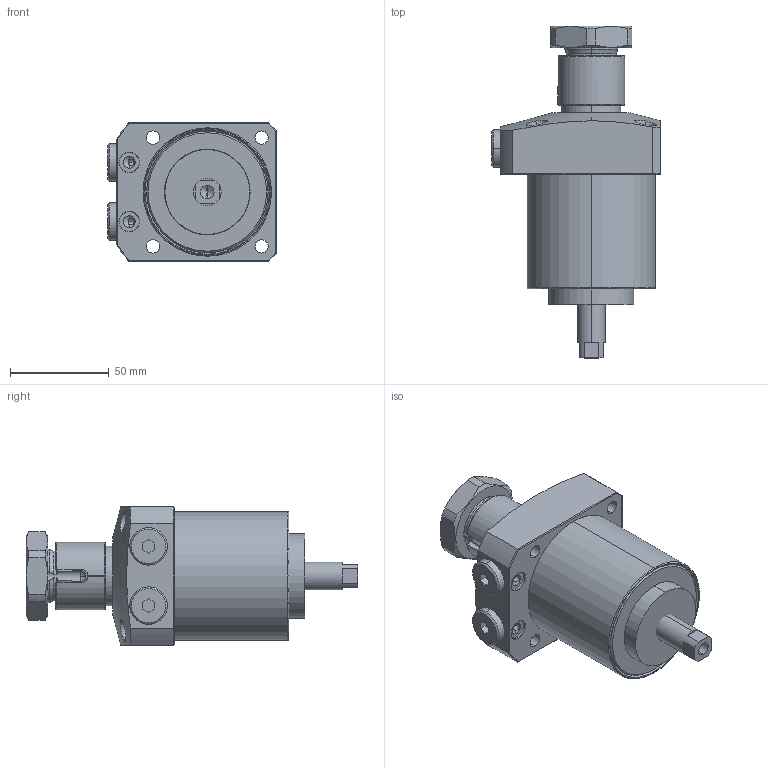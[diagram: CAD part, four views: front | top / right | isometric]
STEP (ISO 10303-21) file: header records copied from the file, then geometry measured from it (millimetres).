
FILE_DESCRIPTION (( 'STEP AP203' ), '1' );
FILE_NAME ('20500-CR-D.STEP', '2020-06-10T01:24:09', ( '微软用户' ), ( '微软中国' ), 'SwSTEP 2.0', 'SolidWorks 2014', '' );
FILE_SCHEMA (( 'CONFIG_CONTROL_DESIGN' ));
Length unit declared in the file: millimetre
Products named in the file (7): 20500-01^20500-CR-D; 20500-02^20500-CR-D; 20500-03^20500-CR-D; 20500-04^20500-CR-D; 20500-05^20500-CR-D; 20500-C-P-4^20500-CR-D; 20500-CR-D
Assembly tree (7 placements, depth 2):
  20500-CR-D
    20500-01^20500-CR-D
    20500-02^20500-CR-D
    20500-03^20500-CR-D
    20500-04^20500-CR-D
    20500-05^20500-CR-D
    20500-C-P-4^20500-CR-D  x2
Bounding box: 85.5 x 168 x 70 mm (x, y, z)
Volume: 423648 mm3; surface area: 62645.6 mm2
Topology: 7 solids, 7 shells, 234 faces, 567 edges, 358 vertices
Faces by surface type: plane 86, cylinder 79, cone 51, torus 16, sphere 2
Entity records: 8107 total; most frequent: CARTESIAN_POINT 2151, DIRECTION 1117, ORIENTED_EDGE 1070, EDGE_CURVE 535, AXIS2_PLACEMENT_3D 451, VERTEX_POINT 340, EDGE_LOOP 249, FACE_OUTER_BOUND 221
